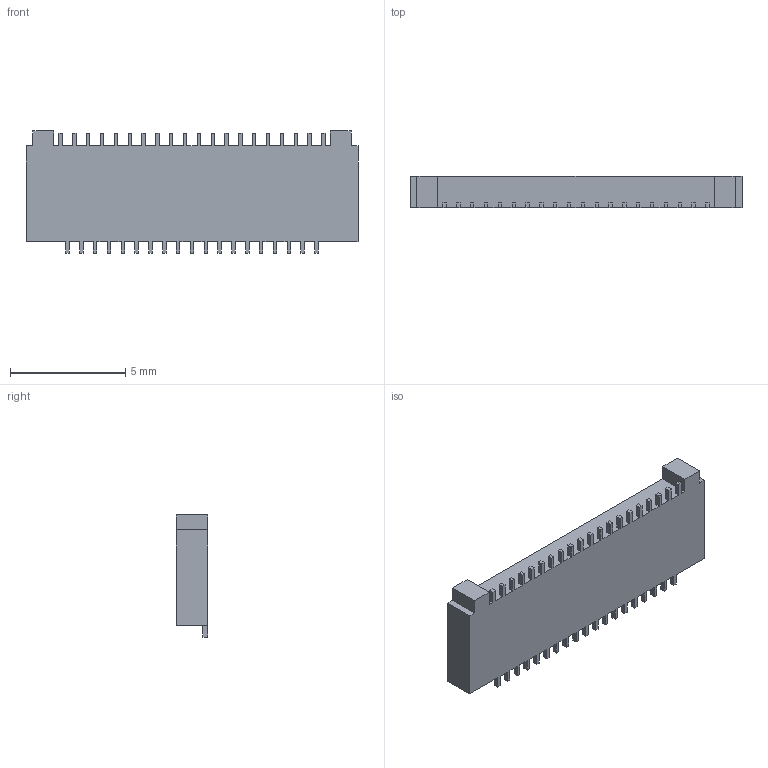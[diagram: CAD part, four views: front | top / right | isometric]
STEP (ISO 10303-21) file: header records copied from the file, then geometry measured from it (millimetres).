
FILE_DESCRIPTION((''),'2;1');
FILE_NAME('FPC-39P-HRS_PRT','2008-06-30T',('GRA'),(''),'PRO/ENGINEER BY PARAMETRIC TECHNOLOGY CORPORATION, 2006170','PRO/ENGINEER BY PARAMETRIC TECHNOLOGY CORPORATION, 2006170','');
FILE_SCHEMA(('CONFIG_CONTROL_DESIGN'));
Length unit declared in the file: millimetre
Products named in the file (1): FPC-39P-HRS_PRT
Bounding box: 14.4 x 1.35 x 5.3 mm (x, y, z)
Volume: 82.9 mm3; surface area: 189.8 mm2
Topology: 1 solids, 1 shells, 170 faces, 504 edges, 336 vertices
Faces by surface type: plane 170
Entity records: 5606 total; most frequent: CARTESIAN_POINT 1010, ORIENTED_EDGE 1008, DIRECTION 844, VECTOR 504, LINE 504, EDGE_CURVE 504, VERTEX_POINT 336, AXIS2_PLACEMENT_3D 170
